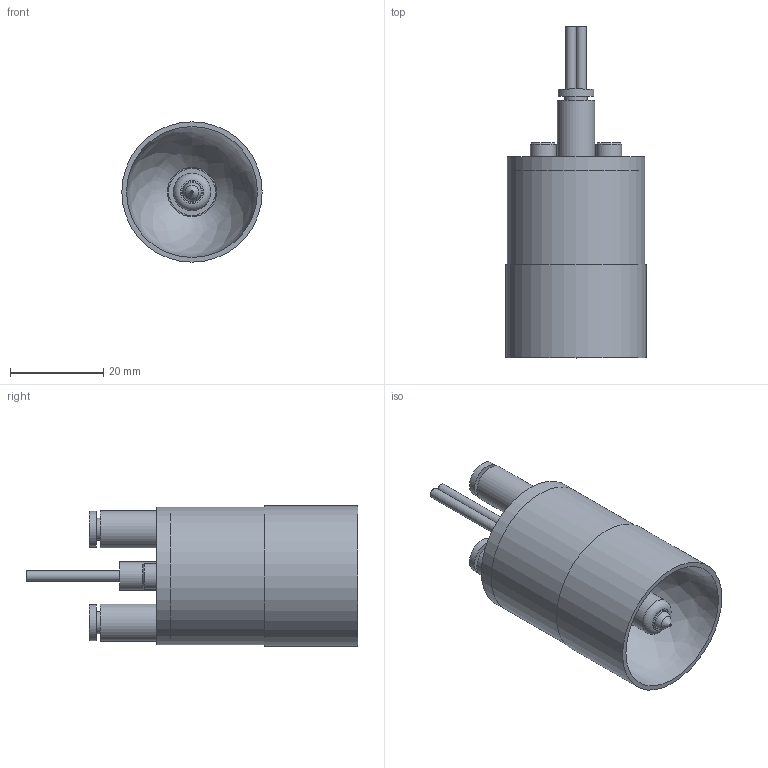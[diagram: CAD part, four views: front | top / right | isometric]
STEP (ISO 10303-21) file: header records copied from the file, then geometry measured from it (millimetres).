
FILE_DESCRIPTION(/* description */ (''),/* implementation_level */ '2;1');
FILE_NAME(/* name */ 'D:/ドキュメント/ACLT/その他/FTC_HP/HSH/3D/HSH-30Air_01.step',/* time_stamp */ '2018-05-31T12:34:47+09:00',/* author */ ('j.masuoka@mbe.nifty.com'),/* organization */ (''),/* preprocessor_version */ 'ST-DEVELOPER v17',/* originating_system */ 'Autodesk Translation Framework v7.1.0.215',/* authorisation */ '');
FILE_SCHEMA (('AUTOMOTIVE_DESIGN { 1 0 10303 214 3 1 1 }'));
Length unit declared in the file: millimetre
Products named in the file (14): HSH-30Air_01; HSH-30_01; 30-1 v2; 30-3 v4; 30-4 v7; 30Air-2 v3; 30Air-1 v4; 30-6b v2; 30-5 v3; 30-5 v3 (1); KQ2S04-M6A v4; KQ2S04-M6A v4 (1); SCB3-6 v2; SCB3-6 v2 (1)
Assembly tree (13 placements, depth 3):
  HSH-30Air_01
    HSH-30_01
      30-1 v2
      30-3 v4
      30-4 v7
    30Air-2 v3
    30Air-1 v4
    30-6b v2
    30-5 v3
    30-5 v3 (1)
    KQ2S04-M6A v4
    KQ2S04-M6A v4 (1)
    SCB3-6 v2
    SCB3-6 v2 (1)
Bounding box: 30 x 71 x 30 mm (x, y, z)
Volume: 15521.9 mm3; surface area: 15108.4 mm2
Topology: 12 solids, 12 shells, 137 faces, 325 edges, 232 vertices
Faces by surface type: plane 78, cylinder 37, cone 12, torus 4, sphere 4, bspline 2
Full cylindrical faces by diameter (mm): 2 x1, 2.2 x2, 2.529 x1, 3 x2, 3.332 x1, 3.4 x2, 4 x3, 4.8 x2, 5.035 x2, 5.5 x2, 6 x5, 7.7 x2, 8 x3, 10 x1, 10.488 x1, 13.5 x1, 15 x2, 27 x1, 29.5 x2, 30 x1
Entity records: 5120 total; most frequent: CARTESIAN_POINT 1163, DIRECTION 835, ORIENTED_EDGE 646, AXIS2_PLACEMENT_3D 351, EDGE_CURVE 323, VERTEX_POINT 232, CIRCLE 189, EDGE_LOOP 175
